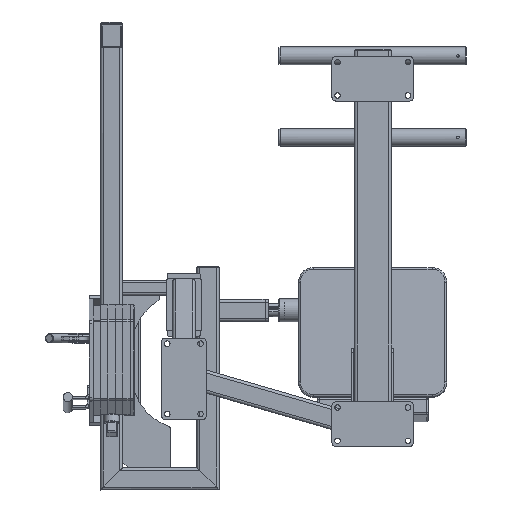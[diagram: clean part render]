
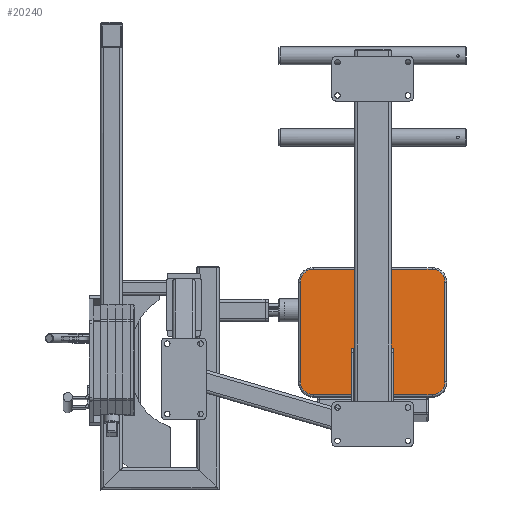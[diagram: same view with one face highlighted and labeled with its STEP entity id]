
A CAD part, front view. The second image highlights one B-rep face of the part: STEP entity #20240.
In plain terms, the highlighted planar face has unit normal (0, -0.996, 0.085).
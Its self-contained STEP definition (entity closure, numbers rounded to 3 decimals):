
#716=FACE_BOUND('',#3261,.T.);
#717=FACE_BOUND('',#3262,.T.);
#718=FACE_BOUND('',#3263,.T.);
#719=FACE_BOUND('',#3264,.T.);
#1047=PLANE('',#22037);
#1923=FACE_OUTER_BOUND('',#3260,.T.);
#3260=EDGE_LOOP('',(#15652,#15653,#15654,#15655,#15656,#15657,#15658,#15659));
#3261=EDGE_LOOP('',(#15660));
#3262=EDGE_LOOP('',(#15661));
#3263=EDGE_LOOP('',(#15662));
#3264=EDGE_LOOP('',(#15663));
#4779=LINE('',#36102,#6505);
#4780=LINE('',#36106,#6506);
#4781=LINE('',#36110,#6507);
#4782=LINE('',#36114,#6508);
#6505=VECTOR('',#25919,1000.);
#6506=VECTOR('',#25922,1000.);
#6507=VECTOR('',#25925,1000.);
#6508=VECTOR('',#25928,1000.);
#7917=CIRCLE('',#22021,7.5);
#7918=CIRCLE('',#22023,7.5);
#7919=CIRCLE('',#22025,7.5);
#7920=CIRCLE('',#22027,7.5);
#7925=CIRCLE('',#22038,35.);
#7926=CIRCLE('',#22039,35.);
#7927=CIRCLE('',#22040,35.);
#7928=CIRCLE('',#22041,35.);
#9172=VERTEX_POINT('',#36028);
#9174=VERTEX_POINT('',#36033);
#9176=VERTEX_POINT('',#36038);
#9178=VERTEX_POINT('',#36043);
#9203=VERTEX_POINT('',#36100);
#9204=VERTEX_POINT('',#36101);
#9205=VERTEX_POINT('',#36103);
#9206=VERTEX_POINT('',#36105);
#9207=VERTEX_POINT('',#36107);
#9208=VERTEX_POINT('',#36109);
#9209=VERTEX_POINT('',#36111);
#9210=VERTEX_POINT('',#36113);
#11492=EDGE_CURVE('',#9172,#9172,#7917,.T.);
#11494=EDGE_CURVE('',#9174,#9174,#7918,.T.);
#11496=EDGE_CURVE('',#9176,#9176,#7919,.T.);
#11498=EDGE_CURVE('',#9178,#9178,#7920,.T.);
#11523=EDGE_CURVE('',#9203,#9204,#4779,.T.);
#11524=EDGE_CURVE('',#9204,#9205,#7925,.T.);
#11525=EDGE_CURVE('',#9205,#9206,#4780,.T.);
#11526=EDGE_CURVE('',#9206,#9207,#7926,.T.);
#11527=EDGE_CURVE('',#9207,#9208,#4781,.T.);
#11528=EDGE_CURVE('',#9208,#9209,#7927,.T.);
#11529=EDGE_CURVE('',#9209,#9210,#4782,.T.);
#11530=EDGE_CURVE('',#9210,#9203,#7928,.T.);
#15652=ORIENTED_EDGE('',*,*,#11523,.T.);
#15653=ORIENTED_EDGE('',*,*,#11524,.T.);
#15654=ORIENTED_EDGE('',*,*,#11525,.T.);
#15655=ORIENTED_EDGE('',*,*,#11526,.T.);
#15656=ORIENTED_EDGE('',*,*,#11527,.T.);
#15657=ORIENTED_EDGE('',*,*,#11528,.T.);
#15658=ORIENTED_EDGE('',*,*,#11529,.T.);
#15659=ORIENTED_EDGE('',*,*,#11530,.T.);
#15660=ORIENTED_EDGE('',*,*,#11498,.T.);
#15661=ORIENTED_EDGE('',*,*,#11496,.T.);
#15662=ORIENTED_EDGE('',*,*,#11494,.T.);
#15663=ORIENTED_EDGE('',*,*,#11492,.T.);
#20240=ADVANCED_FACE('',(#1923,#716,#717,#718,#719),#1047,.F.);
#22021=AXIS2_PLACEMENT_3D('',#36030,#25862,#25863);
#22023=AXIS2_PLACEMENT_3D('',#36035,#25867,#25868);
#22025=AXIS2_PLACEMENT_3D('',#36040,#25872,#25873);
#22027=AXIS2_PLACEMENT_3D('',#36045,#25877,#25878);
#22037=AXIS2_PLACEMENT_3D('',#36099,#25917,#25918);
#22038=AXIS2_PLACEMENT_3D('',#36104,#25920,#25921);
#22039=AXIS2_PLACEMENT_3D('',#36108,#25923,#25924);
#22040=AXIS2_PLACEMENT_3D('',#36112,#25926,#25927);
#22041=AXIS2_PLACEMENT_3D('',#36115,#25929,#25930);
#25862=DIRECTION('center_axis',(0.,0.996,
-0.085));
#25863=DIRECTION('ref_axis',(0.,0.085,0.996));
#25867=DIRECTION('center_axis',(0.,0.996,
-0.085));
#25868=DIRECTION('ref_axis',(0.,0.085,0.996));
#25872=DIRECTION('center_axis',(0.,0.996,
-0.085));
#25873=DIRECTION('ref_axis',(0.,0.085,0.996));
#25877=DIRECTION('center_axis',(0.,0.996,
-0.085));
#25878=DIRECTION('ref_axis',(0.,0.085,0.996));
#25917=DIRECTION('center_axis',(0.,0.996,
-0.085));
#25918=DIRECTION('ref_axis',(0.,0.085,0.996));
#25919=DIRECTION('',(0.,-0.085,-0.996));
#25920=DIRECTION('center_axis',(0.,-0.996,
0.085));
#25921=DIRECTION('ref_axis',(0.,0.085,0.996));
#25922=DIRECTION('',(1.,0.,0.));
#25923=DIRECTION('center_axis',(0.,-0.996,
0.085));
#25924=DIRECTION('ref_axis',(0.,0.085,0.996));
#25925=DIRECTION('',(0.,0.085,0.996));
#25926=DIRECTION('center_axis',(0.,-0.996,
0.085));
#25927=DIRECTION('ref_axis',(0.,0.085,0.996));
#25928=DIRECTION('',(-1.,0.,0.));
#25929=DIRECTION('center_axis',(0.,-0.996,
0.085));
#25930=DIRECTION('ref_axis',(0.,0.085,0.996));
#36028=CARTESIAN_POINT('',(238.267,174.548,177.601));
#36030=CARTESIAN_POINT('Origin',(238.267,173.907,170.128));
#36033=CARTESIAN_POINT('',(238.267,161.737,28.149));
#36035=CARTESIAN_POINT('Origin',(238.267,161.096,20.676));
#36038=CARTESIAN_POINT('',(212.267,161.737,28.149));
#36040=CARTESIAN_POINT('Origin',(212.267,161.096,20.676));
#36043=CARTESIAN_POINT('',(212.267,174.548,177.601));
#36045=CARTESIAN_POINT('Origin',(212.267,173.907,170.128));
#36099=CARTESIAN_POINT('Origin',(210.267,165.579,72.968));
#36100=CARTESIAN_POINT('',(30.267,179.886,239.872));
#36101=CARTESIAN_POINT('',(30.267,156.826,-29.141));
#36102=CARTESIAN_POINT('',(30.267,165.579,72.968));
#36103=CARTESIAN_POINT('',(65.267,153.836,-64.013));
#36104=CARTESIAN_POINT('Origin',(65.267,156.826,-29.141));
#36105=CARTESIAN_POINT('',(385.267,153.836,-64.013));
#36106=CARTESIAN_POINT('',(210.267,153.836,-64.013));
#36107=CARTESIAN_POINT('',(420.267,156.826,-29.141));
#36108=CARTESIAN_POINT('Origin',(385.267,156.826,-29.141));
#36109=CARTESIAN_POINT('',(420.267,179.886,239.872));
#36110=CARTESIAN_POINT('',(420.267,179.886,239.872));
#36111=CARTESIAN_POINT('',(385.267,182.875,274.745));
#36112=CARTESIAN_POINT('Origin',(385.267,179.886,239.872));
#36113=CARTESIAN_POINT('',(65.267,182.875,274.745));
#36114=CARTESIAN_POINT('',(65.267,182.875,274.745));
#36115=CARTESIAN_POINT('Origin',(65.267,179.886,239.872));
